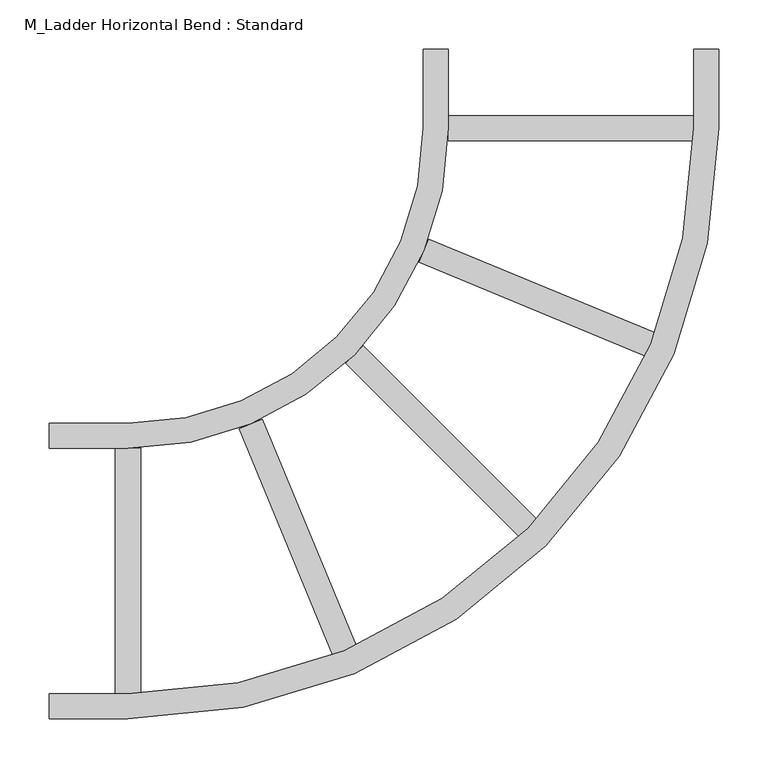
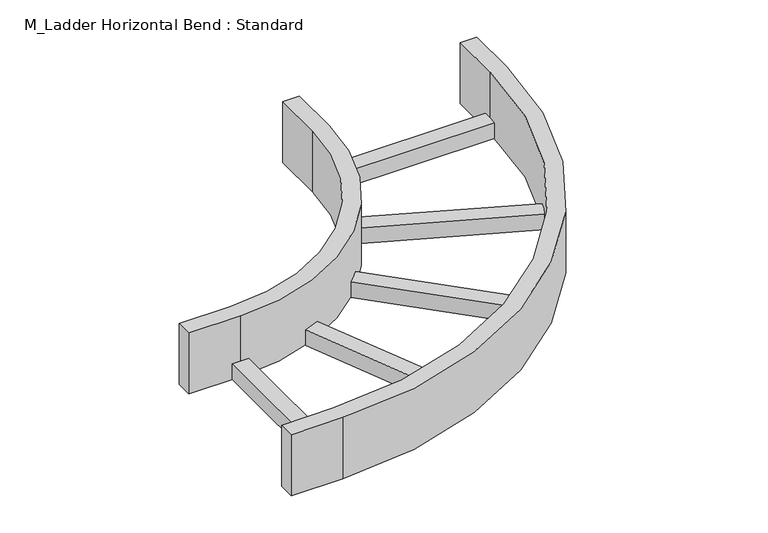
"""IFC4 building model written with IfcOpenShell, lengths in millimetres: cable carrier fitting geometry, M_Ladder Horizontal Bend : Standard."""

from ifc_helpers import new_model, si_unit, point, frame, frame_2d, origin, place, context, project, spatial, polyline, circle_curve, trimmed, segment, composite_curve, outline, extrude, source, transform, mapped, element, save


def m_ladder_horizontal_bend_standard_b7bc1a9d(model_context):
    return source(origin(), model_context, "Body", "SweptSolid", [
        extrude(outline(polyline([(-154.2296797, 313.741541), (-144.5095205, 337.2080812), (85.721259, 241.8433698), (76.0010998, 218.3768297), (-154.2296797, 313.741541)])), frame((0.0, 0.0, -50.0), z_axis=(0.0, 0.0, 1.0), x_axis=(1.0, 0.0, 0.0)), (0.0, 0.0, 1.0), 25.4),
        extrude(outline(polyline([(-337.2080812, 144.5095205), (-313.741541, 154.2296797), (-218.3768297, -76.0010998), (-241.8433698, -85.721259), (-337.2080812, 144.5095205)])), frame((0.0, 0.0, -50.0), z_axis=(0.0, 0.0, 1.0), x_axis=(1.0, 0.0, 0.0)), (0.0, 0.0, 1.0), 25.4),
        extrude(outline(polyline([(-124.6, 437.3), (-124.6, 462.7), (124.6, 462.7), (124.6, 437.3), (-124.6, 437.3)])), frame((0.0, 0.0, -50.0), z_axis=(0.0, 0.0, 1.0), x_axis=(1.0, 0.0, 0.0)), (0.0, 0.0, 1.0), 25.4),
        extrude(outline(polyline([(-462.7, 124.6), (-437.3, 124.6), (-437.3, -124.6), (-462.7, -124.6), (-462.7, 124.6)])), frame((0.0, 0.0, -50.0), z_axis=(0.0, 0.0, 1.0), x_axis=(1.0, 0.0, 0.0)), (0.0, 0.0, 1.0), 25.4),
        extrude(outline(polyline([(-228.8877095, 210.9271973), (-210.9271973, 228.8877095), (-34.7161874, 52.6766996), (-52.6766996, 34.7161874), (-228.8877095, 210.9271973)])), frame((0.0, 0.0, -50.0), z_axis=(0.0, 0.0, 1.0), x_axis=(1.0, 0.0, 0.0)), (0.0, 0.0, 1.0), 25.4),
        extrude(outline(composite_curve([segment(polyline([(-530.0, -150.0), (-530.0, -124.6), (-450.0, -124.6)]), True, "CONTINUOUS"), segment(trimmed(circle_curve(frame_2d((-450.0, 450.0)), 574.6), [point((-450.0, -124.6))], [point((124.6, 450.0))], True, "CARTESIAN"), True, "CONTINUOUS"), segment(polyline([(124.6, 450.0), (124.6, 530.0), (150.0, 530.0), (150.0, 450.0)]), True, "CONTINUOUS"), segment(trimmed(circle_curve(frame_2d((-450.0, 450.0)), 600.0), [point((150.0, 450.0))], [point((-450.0, -150.0))], False, "CARTESIAN"), True, "CONTINUOUS"), segment(polyline([(-450.0, -150.0), (-530.0, -150.0)]), True, "CONTINUOUS")], self_intersect=False)), frame((0.0, 0.0, -50.0), z_axis=(0.0, 0.0, 1.0), x_axis=(1.0, 0.0, 0.0)), (0.0, 0.0, 1.0), 100.0),
        extrude(outline(composite_curve([segment(polyline([(-530.0, 124.6), (-530.0, 150.0), (-450.0, 150.0)]), True, "CONTINUOUS"), segment(trimmed(circle_curve(frame_2d((-450.0, 450.0)), 300.0), [point((-450.0, 150.0))], [point((-150.0, 450.0))], True, "CARTESIAN"), True, "CONTINUOUS"), segment(polyline([(-150.0, 450.0), (-150.0, 530.0), (-124.6, 530.0), (-124.6, 450.0)]), True, "CONTINUOUS"), segment(trimmed(circle_curve(frame_2d((-450.0, 450.0)), 325.4), [point((-124.6, 450.0))], [point((-450.0, 124.6))], False, "CARTESIAN"), True, "CONTINUOUS"), segment(polyline([(-450.0, 124.6), (-530.0, 124.6)]), True, "CONTINUOUS")], self_intersect=False)), frame((0.0, 0.0, -50.0), z_axis=(0.0, 0.0, 1.0), x_axis=(1.0, 0.0, 0.0)), (0.0, 0.0, 1.0), 100.0),
    ])


if __name__ == "__main__":
    model = new_model("IFC4")
    model_context = context("Model", 3, world=origin())
    ifc_project = project(units=[si_unit("LENGTHUNIT", "METRE", prefix="MILLI")], contexts=[model_context])
    site = spatial("IfcSite", under=ifc_project)
    building = spatial("IfcBuilding", under=site)
    placement = place(None, origin())
    m_ladder_horizontal_bend_standard_shape = m_ladder_horizontal_bend_standard_b7bc1a9d(model_context)
    element("IfcCableCarrierFitting", 1, ObjectType="M_Ladder Horizontal Bend : Standard", at=placement, inside=building, context=model_context, shape_type="MappedRepresentation", body=[
        mapped(m_ladder_horizontal_bend_standard_shape, transform((0.0, 0.0, 0.0), x_axis=(1.0, 0.0, 0.0), y_axis=(0.0, 1.0, 0.0), z_axis=(0.0, 0.0, 1.0))),
    ])
    save(model, "model.ifc")
